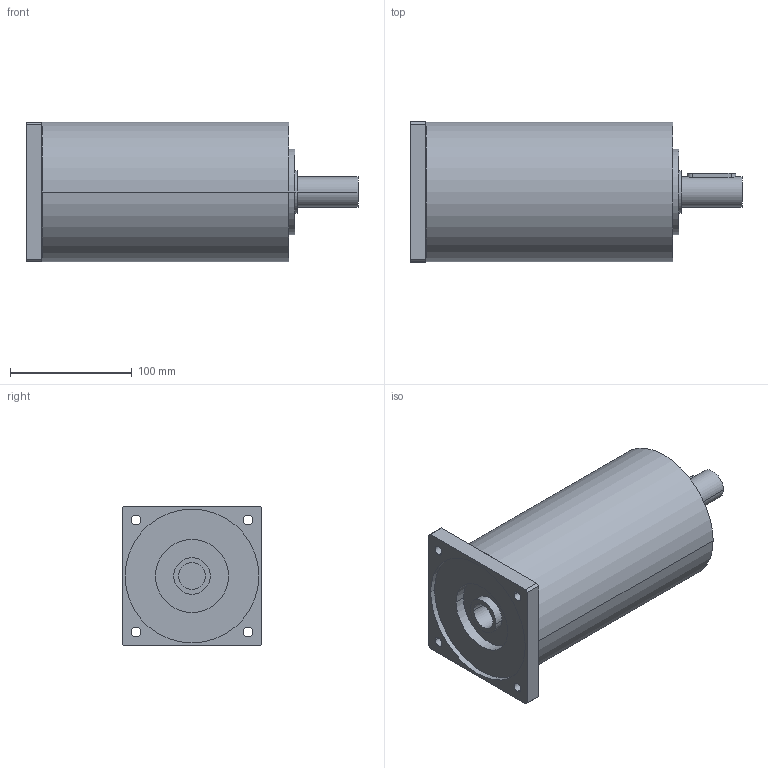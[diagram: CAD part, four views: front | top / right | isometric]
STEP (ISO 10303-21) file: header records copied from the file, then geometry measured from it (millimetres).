
FILE_DESCRIPTION(('CoCreate Modeling STEP Export'),'2;1');
FILE_NAME('GPR125_ig-48-64-80-100-140-196-245-343_25_B14_22_P13.stp','2014-08-26T14:22:13',(''),(''),'CoCreate Modeling STEP processor for AP214 (Solid Model)','CoCreate Modeling 16.00C 25-Feb-2009 (C) Parametric Technology GmbH','');
FILE_SCHEMA(('AUTOMOTIVE_DESIGN { 1 0 10303 214 1 1 1 1 }'));
Length unit declared in the file: millimetre
Products named in the file (2): GPR125_ig-48-64-80-100-140-196-245-343_25_B14_22_P13
Assembly tree (1 placements, depth 2):
  GPR125_ig-48-64-80-100-140-196-245-343_25_B14_22_P13
    GPR125_ig-48-64-80-100-140-196-245-343_25_B14_22_P13
Bounding box: 273 x 115 x 115 mm (x, y, z)
Volume: 2236123.7 mm3; surface area: 122648 mm2
Topology: 1 solids, 1 shells, 65 faces, 178 edges, 126 vertices
Faces by surface type: cylinder 40, plane 21, cone 4
Entity records: 1843 total; most frequent: ORIENTED_EDGE 352, CARTESIAN_POINT 349, DIRECTION 248, EDGE_CURVE 176, VERTEX_POINT 126, AXIS2_PLACEMENT_3D 93, EDGE_LOOP 86, FACE_OUTER_BOUND 65
